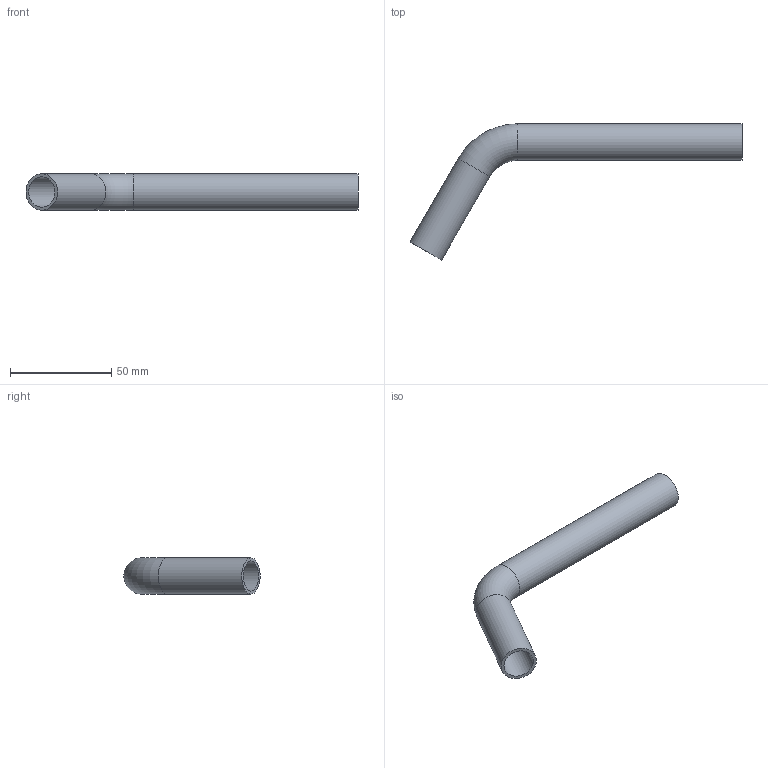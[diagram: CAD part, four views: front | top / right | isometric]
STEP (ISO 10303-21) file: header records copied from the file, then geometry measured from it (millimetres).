
FILE_DESCRIPTION((''),'2;1');
FILE_NAME('G:\Technics\CAD\Bauteile\018\6905818(1).stp','2008-01-31T09:28:32',('herberg'),(''),'Autodesk Inventor 2008','Autodesk Inventor 2008','');
FILE_SCHEMA(('AUTOMOTIVE_DESIGN { 1 0 10303 214 1 1 1 1 }'));
Length unit declared in the file: millimetre
Products named in the file (1): 6905818(1)
Bounding box: 163.79 x 67.19 x 18 mm (x, y, z)
Volume: 14331.1 mm3; surface area: 19263.6 mm2
Topology: 1 solids, 1 shells, 8 faces, 14 edges, 8 vertices
Faces by surface type: cylinder 4, torus 2, plane 2
Full cylindrical faces by diameter (mm): 15 x2, 18 x2
Entity records: 194 total; most frequent: DIRECTION 34, CARTESIAN_POINT 25, AXIS2_PLACEMENT_3D 17, ORIENTED_EDGE 16, EDGE_LOOP 16, VERTEX_POINT 8, CIRCLE 8, EDGE_CURVE 8
